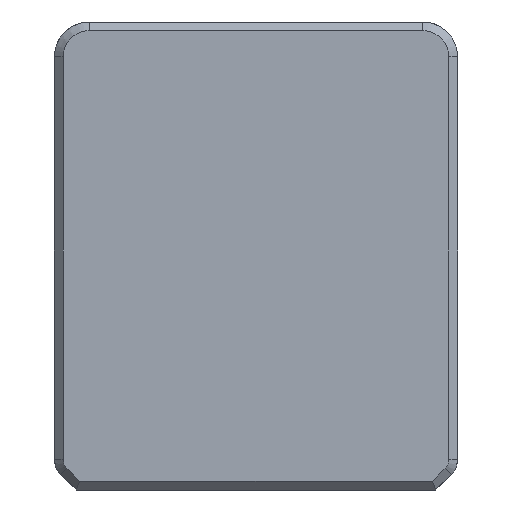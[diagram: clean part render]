
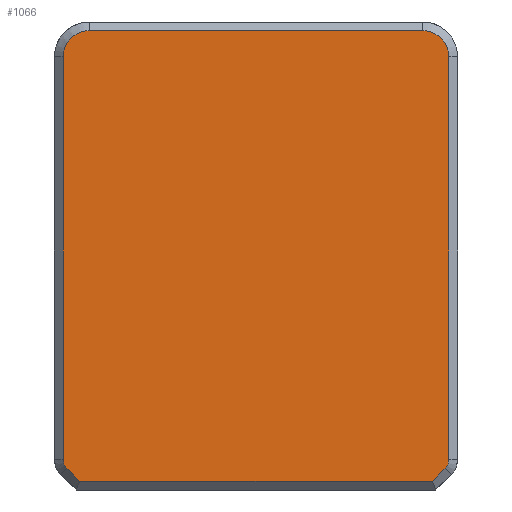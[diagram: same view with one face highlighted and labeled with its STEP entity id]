
A CAD part, front view. The second image highlights one B-rep face of the part: STEP entity #1066.
In plain terms, the highlighted planar face has unit normal (0, -1, 0).
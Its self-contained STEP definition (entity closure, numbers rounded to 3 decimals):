
#27=CIRCLE('',#1131,3.);
#28=CIRCLE('',#1134,6.);
#29=CIRCLE('',#1137,6.);
#31=CIRCLE('',#1141,3.);
#110=FACE_OUTER_BOUND('',#175,.T.);
#175=EDGE_LOOP('',(#867,#868,#869,#870,#871,#872,#873,#874,#875,#876));
#259=LINE('',#1842,#376);
#263=LINE('',#1850,#380);
#267=LINE('',#1859,#384);
#270=LINE('',#1867,#387);
#274=LINE('',#1876,#391);
#278=LINE('',#1886,#395);
#376=VECTOR('',#1278,10.);
#380=VECTOR('',#1284,10.);
#384=VECTOR('',#1294,10.);
#387=VECTOR('',#1303,10.);
#391=VECTOR('',#1313,10.);
#395=VECTOR('',#1325,10.);
#498=VERTEX_POINT('',#1840);
#499=VERTEX_POINT('',#1841);
#502=VERTEX_POINT('',#1849);
#503=VERTEX_POINT('',#1854);
#504=VERTEX_POINT('',#1858);
#505=VERTEX_POINT('',#1862);
#506=VERTEX_POINT('',#1866);
#507=VERTEX_POINT('',#1871);
#508=VERTEX_POINT('',#1875);
#509=VERTEX_POINT('',#1879);
#612=EDGE_CURVE('',#498,#499,#259,.T.);
#616=EDGE_CURVE('',#499,#502,#263,.T.);
#620=EDGE_CURVE('',#502,#503,#27,.T.);
#621=EDGE_CURVE('',#503,#504,#267,.T.);
#624=EDGE_CURVE('',#504,#505,#28,.T.);
#625=EDGE_CURVE('',#505,#506,#270,.T.);
#629=EDGE_CURVE('',#506,#507,#29,.T.);
#630=EDGE_CURVE('',#507,#508,#274,.T.);
#634=EDGE_CURVE('',#508,#509,#31,.T.);
#636=EDGE_CURVE('',#509,#498,#278,.T.);
#867=ORIENTED_EDGE('',*,*,#612,.F.);
#868=ORIENTED_EDGE('',*,*,#636,.F.);
#869=ORIENTED_EDGE('',*,*,#634,.F.);
#870=ORIENTED_EDGE('',*,*,#630,.F.);
#871=ORIENTED_EDGE('',*,*,#629,.F.);
#872=ORIENTED_EDGE('',*,*,#625,.F.);
#873=ORIENTED_EDGE('',*,*,#624,.F.);
#874=ORIENTED_EDGE('',*,*,#621,.F.);
#875=ORIENTED_EDGE('',*,*,#620,.F.);
#876=ORIENTED_EDGE('',*,*,#616,.F.);
#1006=PLANE('',#1146);
#1066=ADVANCED_FACE('',(#110),#1006,.T.);
#1131=AXIS2_PLACEMENT_3D('',#1856,#1290,#1291);
#1134=AXIS2_PLACEMENT_3D('',#1864,#1299,#1300);
#1137=AXIS2_PLACEMENT_3D('',#1873,#1309,#1310);
#1141=AXIS2_PLACEMENT_3D('',#1883,#1320,#1321);
#1146=AXIS2_PLACEMENT_3D('',#1893,#1335,#1336);
#1278=DIRECTION('',(-1.,0.,0.));
#1284=DIRECTION('',(-0.707,0.,0.707));
#1290=DIRECTION('center_axis',(0.,1.,0.));
#1291=DIRECTION('ref_axis',(-0.924,0.,-0.383));
#1294=DIRECTION('',(0.,0.,1.));
#1299=DIRECTION('center_axis',(0.,1.,0.));
#1300=DIRECTION('ref_axis',(-0.707,0.,0.707));
#1303=DIRECTION('',(1.,0.,0.));
#1309=DIRECTION('center_axis',(0.,1.,0.));
#1310=DIRECTION('ref_axis',(0.707,0.,0.707));
#1313=DIRECTION('',(0.,0.,-1.));
#1320=DIRECTION('center_axis',(0.,1.,0.));
#1321=DIRECTION('ref_axis',(0.924,0.,-0.383));
#1325=DIRECTION('',(-0.707,0.,-0.707));
#1335=DIRECTION('center_axis',(0.,-1.,0.));
#1336=DIRECTION('ref_axis',(0.,0.,-1.));
#1840=CARTESIAN_POINT('',(40.672,-20.,-59.5));
#1841=CARTESIAN_POINT('',(-40.672,-20.,-59.5));
#1842=CARTESIAN_POINT('',(-21.75,-20.,-59.5));
#1849=CARTESIAN_POINT('',(-43.621,-20.,-56.55));
#1850=CARTESIAN_POINT('',(-44.461,-20.,-55.711));
#1854=CARTESIAN_POINT('',(-44.5,-20.,-54.429));
#1856=CARTESIAN_POINT('Origin',(-41.5,-20.,-54.429));
#1858=CARTESIAN_POINT('',(-44.5,-20.,38.5));
#1859=CARTESIAN_POINT('',(-44.5,-20.,18.));
#1862=CARTESIAN_POINT('',(-38.5,-20.,44.5));
#1864=CARTESIAN_POINT('Origin',(-38.5,-20.,38.5));
#1866=CARTESIAN_POINT('',(38.5,-20.,44.5));
#1867=CARTESIAN_POINT('',(21.75,-20.,44.5));
#1871=CARTESIAN_POINT('',(44.5,-20.,38.5));
#1873=CARTESIAN_POINT('Origin',(38.5,-20.,38.5));
#1875=CARTESIAN_POINT('',(44.5,-20.,-54.429));
#1876=CARTESIAN_POINT('',(44.5,-20.,-33.));
#1879=CARTESIAN_POINT('',(43.621,-20.,-56.55));
#1883=CARTESIAN_POINT('Origin',(41.5,-20.,-54.429));
#1886=CARTESIAN_POINT('',(44.461,-20.,-55.711));
#1893=CARTESIAN_POINT('Origin',(0.,-20.,-7.5));
